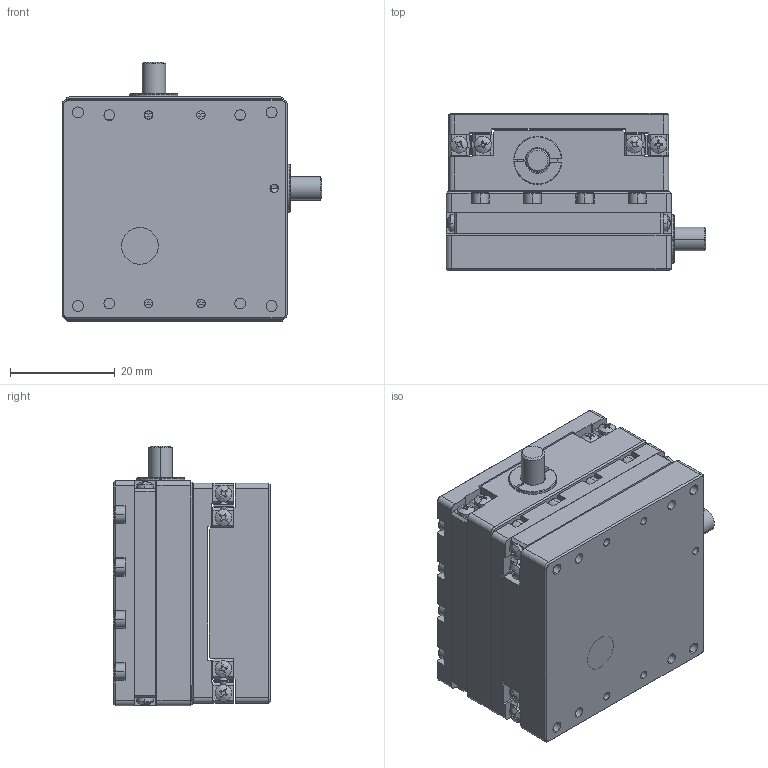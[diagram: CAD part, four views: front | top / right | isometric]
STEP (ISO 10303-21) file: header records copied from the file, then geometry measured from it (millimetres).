
FILE_DESCRIPTION (( 'STEP AP214' ), '1' );
FILE_NAME ('N56.XY20E-B1闭环二维直线压电马达3D图（25.08.01）.STEP', '2026-05-26T05:50:49', ( '微软用户' ), ( '微软中国' ), 'SwSTEP 2.0', 'SolidWorks 2016', '' );
FILE_SCHEMA (( 'AUTOMOTIVE_DESIGN' ));
Length unit declared in the file: millimetre
Products named in the file (1): N56.XY20E-B1闭环二维直线压电马达3D图（25.08.01）
Bounding box: 49.6 x 30 x 49.6 mm (x, y, z)
Volume: 38140.2 mm3; surface area: 34580.9 mm2
Topology: 102 solids, 102 shells, 2350 faces, 5904 edges, 3836 vertices
Faces by surface type: plane 1156, cylinder 970, cone 144, bspline 80
Entity records: 99037 total; most frequent: CARTESIAN_POINT 15035, DIRECTION 12052, ORIENTED_EDGE 11632, EDGE_CURVE 5816, AXIS2_PLACEMENT_3D 4457, VERTEX_POINT 3836, LINE 3138, VECTOR 3138
